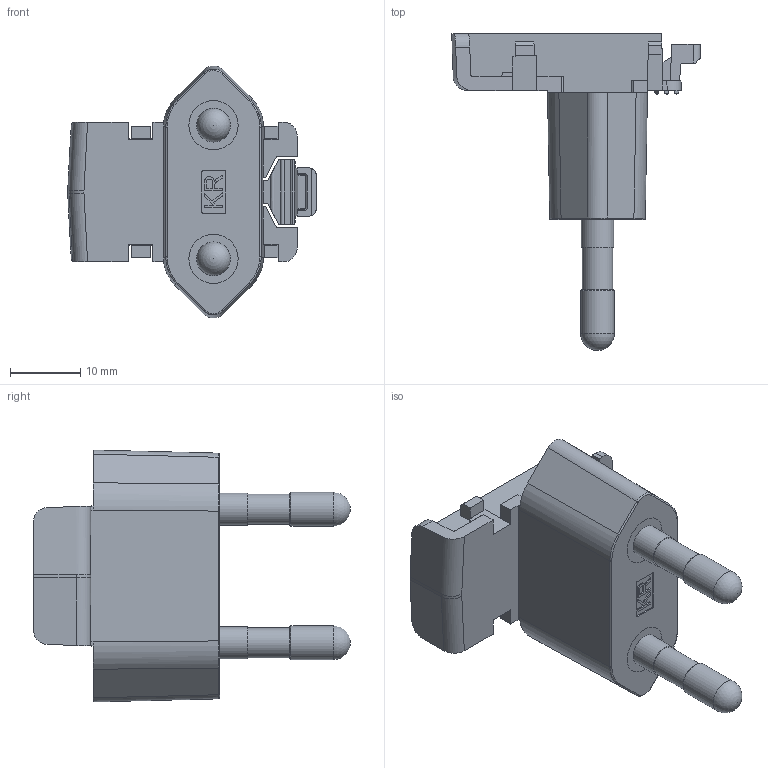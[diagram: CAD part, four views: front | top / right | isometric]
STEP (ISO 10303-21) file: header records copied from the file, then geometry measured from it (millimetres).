
FILE_DESCRIPTION(/* description */ (''),/* implementation_level */ '2;1');
FILE_NAME(/* name */ 'C:\作業區\插頭\5OE0004501H8.stp',/* time_stamp */ '2019-11-06T17:06:55+08:00',/* author */ ('user'),/* organization */ (''),/* preprocessor_version */ 'ST-DEVELOPER v16.1',/* originating_system */ 'Autodesk Inventor 2016',/* authorisation */ '');
FILE_SCHEMA (('AUTOMOTIVE_DESIGN { 1 0 10303 214 3 1 1 }'));
Length unit declared in the file: millimetre
Products named in the file (5): PRT0001_1_1_1_1; PRT0005_1_1_1_KR; KOREA-PIN-20131217; ASM0004_ASM_ASM_1_ASM_1_ASM_ASM_ASM_KR; 5OE0004501H8
Assembly tree (5 placements, depth 3):
  5OE0004501H8
    PRT0001_1_1_1_1
    ASM0004_ASM_ASM_1_ASM_1_ASM_ASM_ASM_KR
      PRT0005_1_1_1_KR
      KOREA-PIN-20131217  x2
Bounding box: 35.34 x 45.05 x 35.81 mm (x, y, z)
Volume: 8374.1 mm3; surface area: 9671.6 mm2
Topology: 4 solids, 4 shells, 665 faces, 1872 edges, 1225 vertices
Faces by surface type: plane 434, cylinder 158, bspline 35, torus 22, cone 10, sphere 6
Full cylindrical faces by diameter (mm): 2.8 x6, 3.682 x2, 4 x2, 4.3 x2, 4.6 x2, 4.8 x2, 7 x2
Entity records: 20581 total; most frequent: CARTESIAN_POINT 6975, ORIENTED_EDGE 2914, DIRECTION 2663, EDGE_CURVE 1457, LINE 1107, VECTOR 1107, VERTEX_POINT 958, AXIS2_PLACEMENT_3D 778
